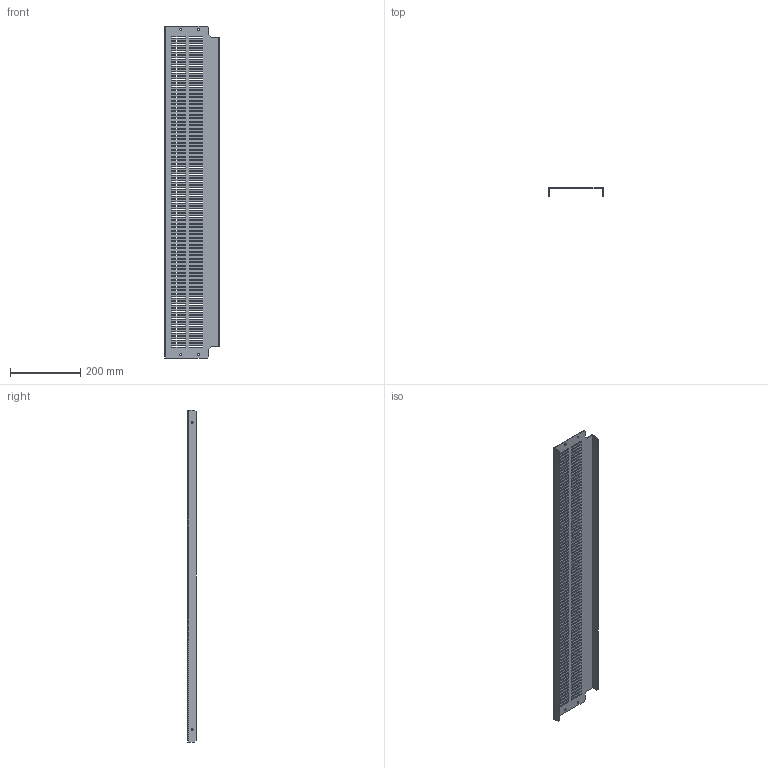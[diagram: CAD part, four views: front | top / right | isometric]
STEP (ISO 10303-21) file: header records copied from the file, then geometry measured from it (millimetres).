
FILE_DESCRIPTION(('CAx-IF Rec.Pracs.---Model Styling and Organization---1.2---2011-12-15','CAx-IF Rec.Pracs.---Geometric and Assembly Validation Properties---4.1---2014-06-16','CAx-IF Rec.Pracs.---PMI Polyline Presentation---2.0---2013-05-24'),'2;1');
FILE_NAME('R5SBA10.stp','2021-05-06T02:23:33+03:00',(''),(''),'STEP Interface 4.4 by CT CoreTechnologie','3D_Evolution4.4 by CT CoreTechnologie','');
FILE_SCHEMA(('AUTOMOTIVE_DESIGN { 1 0 10303 214 1 1 1 1 }'));
Length unit declared in the file: millimetre
Products named in the file (2): R5SBA10; RB.0541.00.00.1_-05
Assembly tree (1 placements, depth 2):
  R5SBA10
    RB.0541.00.00.1_-05
Bounding box: 156.5 x 23 x 945 mm (x, y, z)
Surface area: 346381.2 mm2 (no closed solid volume)
Topology: 0 solids, 1 shells, 760 faces, 2262 edges, 1504 vertices
Faces by surface type: plane 740, cylinder 20
Entity records: 25787 total; most frequent: CARTESIAN_POINT 4528, ORIENTED_EDGE 4524, DIRECTION 3826, EDGE_CURVE 2262, VECTOR 2222, LINE 2222, VERTEX_POINT 1504, EDGE_LOOP 1132
